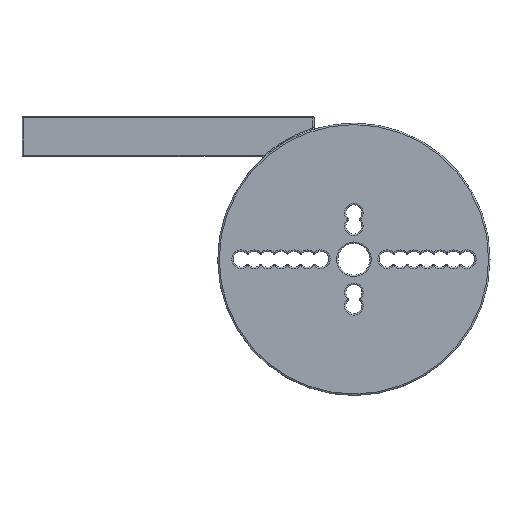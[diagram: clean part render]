
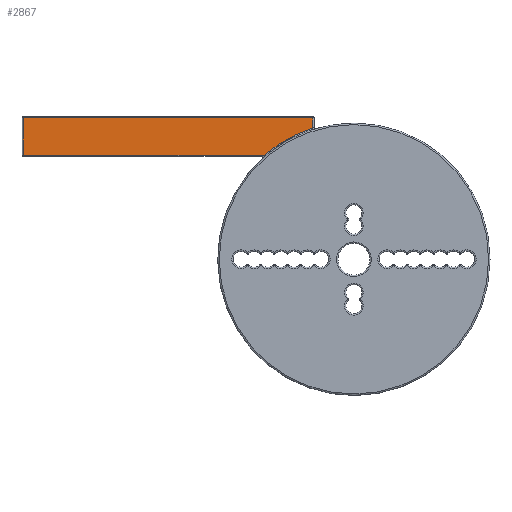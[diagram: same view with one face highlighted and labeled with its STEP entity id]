
A CAD part, top view. The second image highlights one B-rep face of the part: STEP entity #2867.
In plain terms, the highlighted planar face has unit normal (0, 0, 1).
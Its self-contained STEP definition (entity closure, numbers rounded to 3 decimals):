
#206 = TOROIDAL_SURFACE('',#207,20.71,0.21);
#207 = AXIS2_PLACEMENT_3D('',#208,#209,#210);
#208 = CARTESIAN_POINT('',(0.,0.,4.21));
#209 = DIRECTION('',(0.,0.,1.));
#210 = DIRECTION('',(-0.293,0.956,0.));
#657 = VERTEX_POINT('',#658);
#658 = CARTESIAN_POINT('',(-13.494,15.71,4.));
#684 = CYLINDRICAL_SURFACE('',#685,0.21);
#685 = AXIS2_PLACEMENT_3D('',#686,#687,#688);
#686 = CARTESIAN_POINT('',(-50.,15.71,3.79));
#687 = DIRECTION('',(1.,0.,-0.));
#688 = DIRECTION('',(0.,-1.,0.));
#795 = VERTEX_POINT('',#796);
#796 = CARTESIAN_POINT('',(-6.21,19.757,4.));
#825 = EDGE_CURVE('',#795,#657,#826,.T.);
#826 = SURFACE_CURVE('',#827,(#832,#839),.PCURVE_S1.);
#827 = CIRCLE('',#828,20.71);
#828 = AXIS2_PLACEMENT_3D('',#829,#830,#831);
#829 = CARTESIAN_POINT('',(0.,0.,4.));
#830 = DIRECTION('',(0.,0.,1.));
#831 = DIRECTION('',(-0.293,0.956,0.));
#832 = PCURVE('',#206,#833);
#833 = DEFINITIONAL_REPRESENTATION('',(#834),#838);
#834 = LINE('',#835,#836);
#835 = CARTESIAN_POINT('',(0.,4.712));
#836 = VECTOR('',#837,1.);
#837 = DIRECTION('',(1.,0.));
#838 = ( GEOMETRIC_REPRESENTATION_CONTEXT(2) 
PARAMETRIC_REPRESENTATION_CONTEXT() REPRESENTATION_CONTEXT('2D SPACE',''
  ) );
#839 = PCURVE('',#840,#845);
#840 = PLANE('',#841);
#841 = AXIS2_PLACEMENT_3D('',#842,#843,#844);
#842 = CARTESIAN_POINT('',(-50.,15.5,4.));
#843 = DIRECTION('',(0.,0.,1.));
#844 = DIRECTION('',(1.,0.,-0.));
#845 = DEFINITIONAL_REPRESENTATION('',(#846),#850);
#846 = CIRCLE('',#847,20.71);
#847 = AXIS2_PLACEMENT_2D('',#848,#849);
#848 = CARTESIAN_POINT('',(50.,-15.5));
#849 = DIRECTION('',(-0.293,0.956));
#850 = ( GEOMETRIC_REPRESENTATION_CONTEXT(2) 
PARAMETRIC_REPRESENTATION_CONTEXT() REPRESENTATION_CONTEXT('2D SPACE',''
  ) );
#957 = CYLINDRICAL_SURFACE('',#958,0.21);
#958 = AXIS2_PLACEMENT_3D('',#959,#960,#961);
#959 = CARTESIAN_POINT('',(-6.21,19.602,3.79));
#960 = DIRECTION('',(-0.,1.,0.));
#961 = DIRECTION('',(0.,0.,1.));
#2792 = VERTEX_POINT('',#2793);
#2793 = CARTESIAN_POINT('',(-49.79,15.71,4.));
#2820 = EDGE_CURVE('',#2792,#657,#2821,.T.);
#2821 = SURFACE_CURVE('',#2822,(#2826,#2833),.PCURVE_S1.);
#2822 = LINE('',#2823,#2824);
#2823 = CARTESIAN_POINT('',(-50.,15.71,4.));
#2824 = VECTOR('',#2825,1.);
#2825 = DIRECTION('',(1.,0.,-0.));
#2826 = PCURVE('',#684,#2827);
#2827 = DEFINITIONAL_REPRESENTATION('',(#2828),#2832);
#2828 = LINE('',#2829,#2830);
#2829 = CARTESIAN_POINT('',(-1.571,0.));
#2830 = VECTOR('',#2831,1.);
#2831 = DIRECTION('',(-0.,1.));
#2832 = ( GEOMETRIC_REPRESENTATION_CONTEXT(2) 
PARAMETRIC_REPRESENTATION_CONTEXT() REPRESENTATION_CONTEXT('2D SPACE',''
  ) );
#2833 = PCURVE('',#840,#2834);
#2834 = DEFINITIONAL_REPRESENTATION('',(#2835),#2839);
#2835 = LINE('',#2836,#2837);
#2836 = CARTESIAN_POINT('',(0.,0.21));
#2837 = VECTOR('',#2838,1.);
#2838 = DIRECTION('',(1.,0.));
#2839 = ( GEOMETRIC_REPRESENTATION_CONTEXT(2) 
PARAMETRIC_REPRESENTATION_CONTEXT() REPRESENTATION_CONTEXT('2D SPACE',''
  ) );
#2867 = ADVANCED_FACE('',(#2868),#840,.T.);
#2868 = FACE_BOUND('',#2869,.T.);
#2869 = EDGE_LOOP('',(#2870,#2871,#2894,#2922,#2948));
#2870 = ORIENTED_EDGE('',*,*,#825,.F.);
#2871 = ORIENTED_EDGE('',*,*,#2872,.T.);
#2872 = EDGE_CURVE('',#795,#2873,#2875,.T.);
#2873 = VERTEX_POINT('',#2874);
#2874 = CARTESIAN_POINT('',(-6.21,21.29,4.));
#2875 = SURFACE_CURVE('',#2876,(#2880,#2887),.PCURVE_S1.);
#2876 = LINE('',#2877,#2878);
#2877 = CARTESIAN_POINT('',(-6.21,19.602,4.));
#2878 = VECTOR('',#2879,1.);
#2879 = DIRECTION('',(-0.,1.,0.));
#2880 = PCURVE('',#840,#2881);
#2881 = DEFINITIONAL_REPRESENTATION('',(#2882),#2886);
#2882 = LINE('',#2883,#2884);
#2883 = CARTESIAN_POINT('',(43.79,4.102));
#2884 = VECTOR('',#2885,1.);
#2885 = DIRECTION('',(0.,1.));
#2886 = ( GEOMETRIC_REPRESENTATION_CONTEXT(2) 
PARAMETRIC_REPRESENTATION_CONTEXT() REPRESENTATION_CONTEXT('2D SPACE',''
  ) );
#2887 = PCURVE('',#957,#2888);
#2888 = DEFINITIONAL_REPRESENTATION('',(#2889),#2893);
#2889 = LINE('',#2890,#2891);
#2890 = CARTESIAN_POINT('',(0.,0.));
#2891 = VECTOR('',#2892,1.);
#2892 = DIRECTION('',(0.,1.));
#2893 = ( GEOMETRIC_REPRESENTATION_CONTEXT(2) 
PARAMETRIC_REPRESENTATION_CONTEXT() REPRESENTATION_CONTEXT('2D SPACE',''
  ) );
#2894 = ORIENTED_EDGE('',*,*,#2895,.F.);
#2895 = EDGE_CURVE('',#2896,#2873,#2898,.T.);
#2896 = VERTEX_POINT('',#2897);
#2897 = CARTESIAN_POINT('',(-49.79,21.29,4.));
#2898 = SURFACE_CURVE('',#2899,(#2903,#2910),.PCURVE_S1.);
#2899 = LINE('',#2900,#2901);
#2900 = CARTESIAN_POINT('',(-50.,21.29,4.));
#2901 = VECTOR('',#2902,1.);
#2902 = DIRECTION('',(1.,0.,-0.));
#2903 = PCURVE('',#840,#2904);
#2904 = DEFINITIONAL_REPRESENTATION('',(#2905),#2909);
#2905 = LINE('',#2906,#2907);
#2906 = CARTESIAN_POINT('',(0.,5.79));
#2907 = VECTOR('',#2908,1.);
#2908 = DIRECTION('',(1.,0.));
#2909 = ( GEOMETRIC_REPRESENTATION_CONTEXT(2) 
PARAMETRIC_REPRESENTATION_CONTEXT() REPRESENTATION_CONTEXT('2D SPACE',''
  ) );
#2910 = PCURVE('',#2911,#2916);
#2911 = CYLINDRICAL_SURFACE('',#2912,0.21);
#2912 = AXIS2_PLACEMENT_3D('',#2913,#2914,#2915);
#2913 = CARTESIAN_POINT('',(-50.,21.29,3.79));
#2914 = DIRECTION('',(1.,0.,-0.));
#2915 = DIRECTION('',(0.,0.,1.));
#2916 = DEFINITIONAL_REPRESENTATION('',(#2917),#2921);
#2917 = LINE('',#2918,#2919);
#2918 = CARTESIAN_POINT('',(-0.,0.));
#2919 = VECTOR('',#2920,1.);
#2920 = DIRECTION('',(-0.,1.));
#2921 = ( GEOMETRIC_REPRESENTATION_CONTEXT(2) 
PARAMETRIC_REPRESENTATION_CONTEXT() REPRESENTATION_CONTEXT('2D SPACE',''
  ) );
#2922 = ORIENTED_EDGE('',*,*,#2923,.F.);
#2923 = EDGE_CURVE('',#2792,#2896,#2924,.T.);
#2924 = SURFACE_CURVE('',#2925,(#2929,#2936),.PCURVE_S1.);
#2925 = LINE('',#2926,#2927);
#2926 = CARTESIAN_POINT('',(-49.79,15.5,4.));
#2927 = VECTOR('',#2928,1.);
#2928 = DIRECTION('',(-0.,1.,0.));
#2929 = PCURVE('',#840,#2930);
#2930 = DEFINITIONAL_REPRESENTATION('',(#2931),#2935);
#2931 = LINE('',#2932,#2933);
#2932 = CARTESIAN_POINT('',(0.21,0.));
#2933 = VECTOR('',#2934,1.);
#2934 = DIRECTION('',(0.,1.));
#2935 = ( GEOMETRIC_REPRESENTATION_CONTEXT(2) 
PARAMETRIC_REPRESENTATION_CONTEXT() REPRESENTATION_CONTEXT('2D SPACE',''
  ) );
#2936 = PCURVE('',#2937,#2942);
#2937 = CYLINDRICAL_SURFACE('',#2938,0.21);
#2938 = AXIS2_PLACEMENT_3D('',#2939,#2940,#2941);
#2939 = CARTESIAN_POINT('',(-49.79,15.5,3.79));
#2940 = DIRECTION('',(-0.,1.,0.));
#2941 = DIRECTION('',(0.,0.,1.));
#2942 = DEFINITIONAL_REPRESENTATION('',(#2943),#2947);
#2943 = LINE('',#2944,#2945);
#2944 = CARTESIAN_POINT('',(-0.,0.));
#2945 = VECTOR('',#2946,1.);
#2946 = DIRECTION('',(-0.,1.));
#2947 = ( GEOMETRIC_REPRESENTATION_CONTEXT(2) 
PARAMETRIC_REPRESENTATION_CONTEXT() REPRESENTATION_CONTEXT('2D SPACE',''
  ) );
#2948 = ORIENTED_EDGE('',*,*,#2820,.T.);
